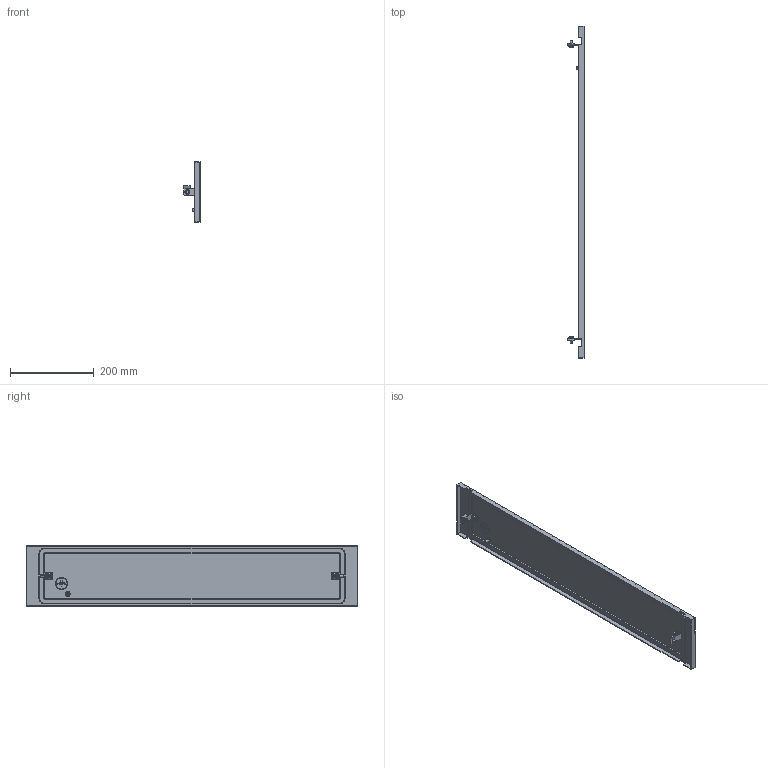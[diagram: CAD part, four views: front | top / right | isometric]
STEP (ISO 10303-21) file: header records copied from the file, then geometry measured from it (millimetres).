
FILE_DESCRIPTION (( 'STEP AP214' ), '1' );
FILE_NAME ('FO-00-PWSB-015-080 Ôàëüø-ïàíåëü âíåøíÿÿ ãëóõàÿ 150õ800 ìì.STEP', '2025-08-25T08:44:30', ( '' ), ( '' ), 'SwSTEP 2.0', 'SolidWorks 2023', '' );
FILE_SCHEMA (( 'AUTOMOTIVE_DESIGN' ));
Length unit declared in the file: millimetre
Products named in the file (1): FO-00-PWSB-015-080 Фальш-панель внешняя глухая 150х800 мм
Bounding box: 38.5 x 795 x 146 mm (x, y, z)
Volume: 335111 mm3; surface area: 289713.8 mm2
Topology: 1 solids, 6 shells, 468 faces, 1159 edges, 717 vertices
Faces by surface type: plane 288, cylinder 116, cone 48, torus 16
Entity records: 14002 total; most frequent: CARTESIAN_POINT 2667, DIRECTION 2423, ORIENTED_EDGE 2314, EDGE_CURVE 1157, AXIS2_PLACEMENT_3D 829, LINE 765, VECTOR 765, VERTEX_POINT 717
